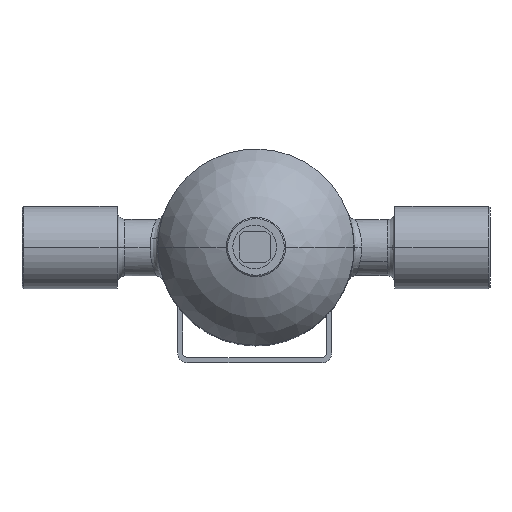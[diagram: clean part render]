
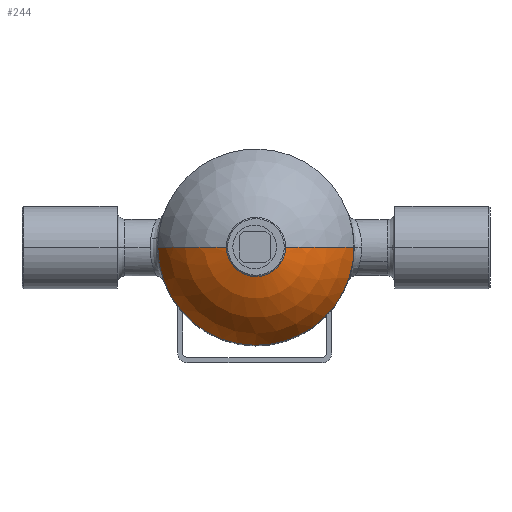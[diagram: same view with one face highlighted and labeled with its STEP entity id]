
A CAD part, top view. The second image highlights one B-rep face of the part: STEP entity #244.
In plain terms, the highlighted spherical face has radius 41.372 mm.
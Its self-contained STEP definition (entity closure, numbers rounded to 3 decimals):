
#244=ADVANCED_FACE('',(#1609),#1608,.T.);
#1608=SPHERICAL_SURFACE('',#2902,41.372);
#1609=FACE_OUTER_BOUND('',#2903,.T.);
#2899=CARTESIAN_POINT('',(0.5,0.,87.628));
#2900=DIRECTION('',(0.,0.,-1.));
#2901=DIRECTION('',(1.,0.,0.));
#2902=AXIS2_PLACEMENT_3D('',#2899,#2900,#2901);
#2903=EDGE_LOOP('',(#4045,#4046,#4047,#4048,#4049));
#4045=ORIENTED_EDGE('',*,*,#4493,.T.);
#4046=ORIENTED_EDGE('',*,*,#4490,.T.);
#4047=ORIENTED_EDGE('',*,*,#4494,.F.);
#4048=ORIENTED_EDGE('',*,*,#4495,.F.);
#4049=ORIENTED_EDGE('',*,*,#4492,.F.);
#4490=EDGE_CURVE('',#6757,#6750,#6758,.T.);
#4492=EDGE_CURVE('',#6764,#6743,#6771,.T.);
#4493=EDGE_CURVE('',#6764,#6757,#6777,.T.);
#4494=EDGE_CURVE('',#6783,#6750,#6784,.T.);
#4495=EDGE_CURVE('',#6743,#6783,#6790,.T.);
#6743=VERTEX_POINT('',#8663);
#6750=VERTEX_POINT('',#8668);
#6757=VERTEX_POINT('',#8673);
#6758=(BOUNDED_CURVE() B_SPLINE_CURVE(2,(#8674,#8675,#8676),.UNSPECIFIED.,.F.,.F.) B_SPLINE_CURVE_WITH_KNOTS((3,3),(0.,1.),.UNSPECIFIED.) CURVE() GEOMETRIC_REPRESENTATION_ITEM() RATIONAL_B_SPLINE_CURVE((1.,0.902,1.)) REPRESENTATION_ITEM('') );
#6764=VERTEX_POINT('',#8677);
#6771=(BOUNDED_CURVE() B_SPLINE_CURVE(2,(#8682,#8683,#8684),.UNSPECIFIED.,.F.,.F.) B_SPLINE_CURVE_WITH_KNOTS((3,3),(0.,1.),.UNSPECIFIED.) CURVE() GEOMETRIC_REPRESENTATION_ITEM() RATIONAL_B_SPLINE_CURVE((0.75,0.677,0.75)) REPRESENTATION_ITEM('') );
#6777=CIRCLE('',#8688,11.5);
#6783=VERTEX_POINT('',#8689);
#6784=CIRCLE('',#8693,38.15);
#6790=CIRCLE('',#8697,38.15);
#8663=CARTESIAN_POINT('',(38.65,-0.004,103.634));
#8668=CARTESIAN_POINT('',(-37.65,0.,103.634));
#8673=CARTESIAN_POINT('',(-11.,0.,127.37));
#8674=CARTESIAN_POINT('',(-11.,0.,127.37));
#8675=CARTESIAN_POINT('',(-29.998,0.,121.872));
#8676=CARTESIAN_POINT('',(-37.65,0.,103.634));
#8677=CARTESIAN_POINT('',(12.,0.,127.37));
#8682=CARTESIAN_POINT('',(12.,0.,127.37));
#8683=CARTESIAN_POINT('',(30.998,0.,121.872));
#8684=CARTESIAN_POINT('',(38.65,0.,103.634));
#8685=CARTESIAN_POINT('',(0.5,0.,127.37));
#8686=DIRECTION('',(0.,0.,-1.));
#8687=DIRECTION('',(-1.,0.,0.));
#8688=AXIS2_PLACEMENT_3D('',#8685,#8686,#8687);
#8689=CARTESIAN_POINT('',(0.167,-38.149,103.634));
#8690=CARTESIAN_POINT('',(0.5,0.,103.634));
#8691=DIRECTION('',(0.,0.,-1.));
#8692=DIRECTION('',(-1.,0.,0.));
#8693=AXIS2_PLACEMENT_3D('',#8690,#8691,#8692);
#8694=CARTESIAN_POINT('',(0.5,0.,103.634));
#8695=DIRECTION('',(0.,0.,-1.));
#8696=DIRECTION('',(-1.,0.,0.));
#8697=AXIS2_PLACEMENT_3D('',#8694,#8695,#8696);
